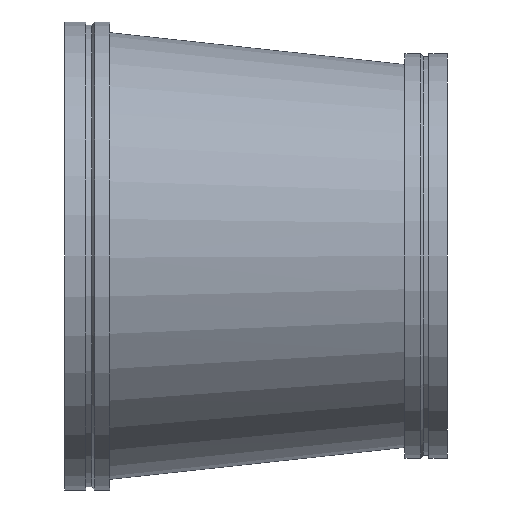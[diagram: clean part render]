
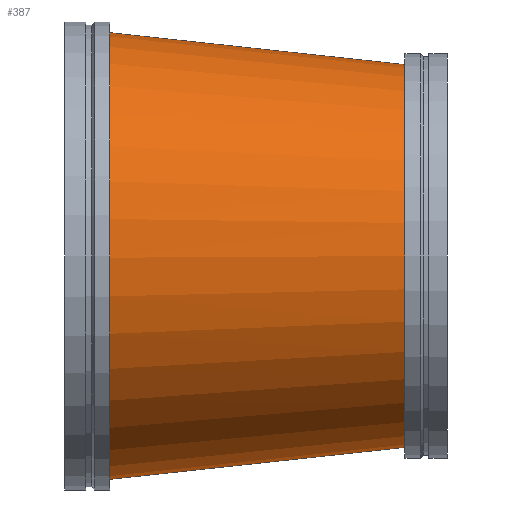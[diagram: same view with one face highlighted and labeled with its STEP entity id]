
A CAD part, front view. The second image highlights one B-rep face of the part: STEP entity #387.
In plain terms, the highlighted free-form (B-spline) face has degree [1, 2] with [2, 9] control points.
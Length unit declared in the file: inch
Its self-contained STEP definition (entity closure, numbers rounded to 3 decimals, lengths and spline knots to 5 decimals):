
#46=B_SPLINE_CURVE_WITH_KNOTS('',1,(#747,#748),.UNSPECIFIED.,.F.,.F.,(2,
2),(-1.33774,-0.00122),.UNSPECIFIED.);
#48=(
BOUNDED_SURFACE()
B_SPLINE_SURFACE(1,2,((#729,#730,#731,#732,#733,#734,#735,#736,#737),(#738,
#739,#740,#741,#742,#743,#744,#745,#746)),.UNSPECIFIED.,.F.,.T.,.F.)
B_SPLINE_SURFACE_WITH_KNOTS((2,2),(3,2,2,2,3),(-0.10687,1.4283),
(-3.14159,-1.5708,0.,1.5708,3.14159),
 .UNSPECIFIED.)
GEOMETRIC_REPRESENTATION_ITEM()
RATIONAL_B_SPLINE_SURFACE(((1.,0.707,1.,0.707,1.,
0.707,1.,0.707,1.),(1.,0.707,1.,0.707,
1.,0.707,1.,0.707,1.)))
REPRESENTATION_ITEM('')
SURFACE()
);
#98=FACE_OUTER_BOUND('',#120,.T.);
#120=EDGE_LOOP('',(#321,#322,#323,#324,#325,#326));
#129=CIRCLE('',#415,18.);
#130=CIRCLE('',#416,18.);
#153=CIRCLE('',#450,21.);
#154=CIRCLE('',#451,21.);
#166=VERTEX_POINT('',#628);
#167=VERTEX_POINT('',#629);
#190=VERTEX_POINT('',#695);
#191=VERTEX_POINT('',#696);
#203=EDGE_CURVE('',#166,#167,#129,.T.);
#204=EDGE_CURVE('',#167,#166,#130,.T.);
#235=EDGE_CURVE('',#190,#191,#153,.T.);
#236=EDGE_CURVE('',#191,#190,#154,.T.);
#243=EDGE_CURVE('',#167,#191,#46,.T.);
#321=ORIENTED_EDGE('',*,*,#203,.T.);
#322=ORIENTED_EDGE('',*,*,#243,.T.);
#323=ORIENTED_EDGE('',*,*,#236,.T.);
#324=ORIENTED_EDGE('',*,*,#235,.T.);
#325=ORIENTED_EDGE('',*,*,#243,.F.);
#326=ORIENTED_EDGE('',*,*,#204,.T.);
#387=ADVANCED_FACE('',(#98),#48,.F.);
#415=AXIS2_PLACEMENT_3D('',#630,#486,#487);
#416=AXIS2_PLACEMENT_3D('',#631,#488,#489);
#450=AXIS2_PLACEMENT_3D('',#697,#564,#565);
#451=AXIS2_PLACEMENT_3D('',#698,#566,#567);
#486=DIRECTION('center_axis',(-1.,0.,0.));
#487=DIRECTION('ref_axis',(0.,-1.,0.));
#488=DIRECTION('center_axis',(-1.,0.,0.));
#489=DIRECTION('ref_axis',(0.,-1.,0.));
#564=DIRECTION('center_axis',(1.,0.,0.));
#565=DIRECTION('ref_axis',(0.,1.,0.));
#566=DIRECTION('center_axis',(1.,0.,0.));
#567=DIRECTION('ref_axis',(0.,1.,0.));
#628=CARTESIAN_POINT('',(32.,-21.,0.));
#629=CARTESIAN_POINT('',(32.,-3.20559,17.99883));
#630=CARTESIAN_POINT('Origin',(32.,-3.,0.));
#631=CARTESIAN_POINT('Origin',(32.,-3.,0.));
#695=CARTESIAN_POINT('',(4.25,21.,0.));
#696=CARTESIAN_POINT('',(4.25,-0.23986,20.99863));
#697=CARTESIAN_POINT('Origin',(4.25,0.,0.));
#698=CARTESIAN_POINT('Origin',(4.25,0.,0.));
#729=CARTESIAN_POINT('Ctrl Pts',(2.00566,0.,
21.24125));
#730=CARTESIAN_POINT('Ctrl Pts',(-0.23868,-21.,21.24125));
#731=CARTESIAN_POINT('Ctrl Pts',(-0.23868,-21.,0.));
#732=CARTESIAN_POINT('Ctrl Pts',(-0.23868,-21.,-21.24125));
#733=CARTESIAN_POINT('Ctrl Pts',(2.00566,0.,
-21.24125));
#734=CARTESIAN_POINT('Ctrl Pts',(4.25,21.,-21.24125));
#735=CARTESIAN_POINT('Ctrl Pts',(4.25,21.,0.));
#736=CARTESIAN_POINT('Ctrl Pts',(4.25,21.,21.24125));
#737=CARTESIAN_POINT('Ctrl Pts',(2.00566,0.,
21.24125));
#738=CARTESIAN_POINT('Ctrl Pts',(33.88027,-3.40655,17.79557));
#739=CARTESIAN_POINT('Ctrl Pts',(32.,-21.,17.79557));
#740=CARTESIAN_POINT('Ctrl Pts',(32.,-21.,0.));
#741=CARTESIAN_POINT('Ctrl Pts',(32.,-21.,-17.79557));
#742=CARTESIAN_POINT('Ctrl Pts',(33.88027,-3.40655,-17.79557));
#743=CARTESIAN_POINT('Ctrl Pts',(35.76054,14.18691,-17.79557));
#744=CARTESIAN_POINT('Ctrl Pts',(35.76054,14.18691,0.));
#745=CARTESIAN_POINT('Ctrl Pts',(35.76054,14.18691,17.79557));
#746=CARTESIAN_POINT('Ctrl Pts',(33.88027,-3.40655,17.79557));
#747=CARTESIAN_POINT('Ctrl Pts',(32.,-3.20559,17.99883));
#748=CARTESIAN_POINT('Ctrl Pts',(4.25,-0.23986,20.99863));
